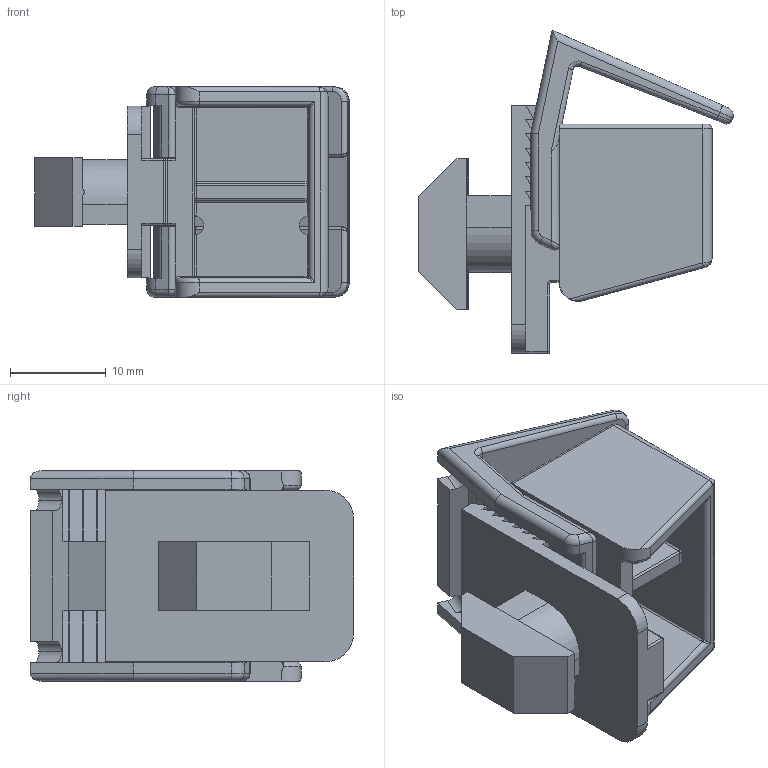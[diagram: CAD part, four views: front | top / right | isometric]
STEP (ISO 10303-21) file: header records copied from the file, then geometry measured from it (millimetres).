
FILE_DESCRIPTION(('STEP AP214'),'1');
FILE_NAME('fath_094203sl.stp','2017-10-09T10:20:44',('TraceParts'),('TraceParts S.A.'),'Spatial InterOp 3D',' ',' ');
FILE_SCHEMA(('automotive_design'));
Length unit declared in the file: millimetre
Products named in the file (2): fath_094203sl_1; fath_094203sl_2
Bounding box: 32.92 x 33.84 x 22 mm (x, y, z)
Volume: 6174.2 mm3; surface area: 6426.2 mm2
Topology: 2 solids, 2 shells, 297 faces, 798 edges, 488 vertices
Faces by surface type: plane 155, cylinder 95, torus 23, bspline 14, sphere 10
Entity records: 11863 total; most frequent: CARTESIAN_POINT 2226, ORIENTED_EDGE 1564, DIRECTION 1461, EDGE_CURVE 782, LINE 531, VECTOR 531, VERTEX_POINT 488, AXIS2_PLACEMENT_3D 465
